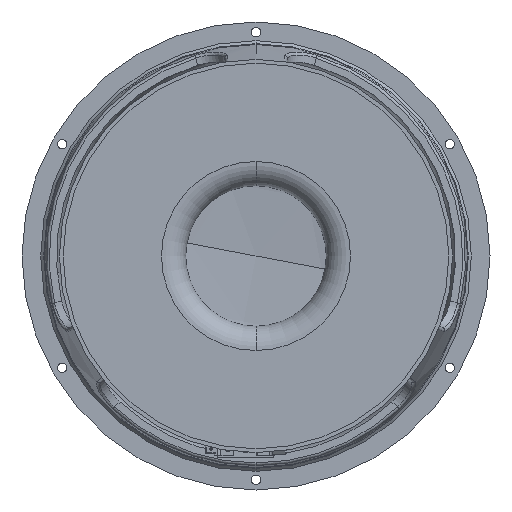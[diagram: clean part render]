
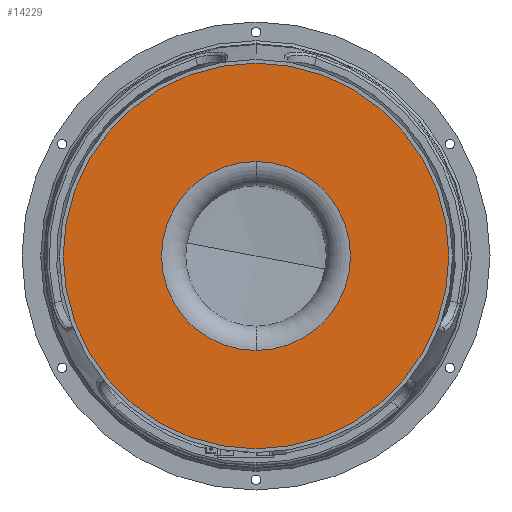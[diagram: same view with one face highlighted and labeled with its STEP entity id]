
A CAD part, front view. The second image highlights one B-rep face of the part: STEP entity #14229.
In plain terms, the highlighted planar face has unit normal (0, -1, 0).
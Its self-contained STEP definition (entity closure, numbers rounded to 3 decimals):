
#1435 = VERTEX_POINT ( 'NONE', #2623 ) ;
#2566 = DIRECTION ( 'NONE',  ( 0., -1., 0. ) ) ;
#2623 = CARTESIAN_POINT ( 'NONE',  ( 0., -56.5, -50.5 ) ) ;
#3264 = EDGE_CURVE ( 'NONE', #12373, #12003, #19833, .T. ) ;
#3355 = AXIS2_PLACEMENT_3D ( 'NONE', #19622, #9772, #21264 ) ;
#4323 = CARTESIAN_POINT ( 'NONE',  ( 0., -56.5, -103. ) ) ;
#4853 = CARTESIAN_POINT ( 'NONE',  ( 0., -56.5, 50.5 ) ) ;
#4999 = EDGE_LOOP ( 'NONE', ( #17931, #17667 ) ) ;
#5209 = AXIS2_PLACEMENT_3D ( 'NONE', #13741, #17062, #7168 ) ;
#5247 = CARTESIAN_POINT ( 'NONE',  ( 0., -56.5, 0. ) ) ;
#6384 = DIRECTION ( 'NONE',  ( 0., -1., 0. ) ) ;
#6883 = DIRECTION ( 'NONE',  ( 0., 0., -1. ) ) ;
#7168 = DIRECTION ( 'NONE',  ( 0., 0., -1. ) ) ;
#8040 = CIRCLE ( 'NONE', #3355, 50.5 ) ;
#9271 = EDGE_CURVE ( 'NONE', #1435, #19871, #15607, .T. ) ;
#9591 = EDGE_CURVE ( 'NONE', #19871, #1435, #8040, .T. ) ;
#9772 = DIRECTION ( 'NONE',  ( 0., -1., 0. ) ) ;
#10438 = PLANE ( 'NONE',  #5209 ) ;
#10822 = AXIS2_PLACEMENT_3D ( 'NONE', #5247, #16781, #6883 ) ;
#10858 = FACE_BOUND ( 'NONE', #4999, .T. ) ;
#10877 = ORIENTED_EDGE ( 'NONE', *, *, #20690, .T. ) ;
#12003 = VERTEX_POINT ( 'NONE', #4323 ) ;
#12373 = VERTEX_POINT ( 'NONE', #15834 ) ;
#12449 = CARTESIAN_POINT ( 'NONE',  ( 0., -56.5, 0. ) ) ;
#13741 = CARTESIAN_POINT ( 'NONE',  ( 103., -56.5, 0. ) ) ;
#14101 = DIRECTION ( 'NONE',  ( 0., 0., -1. ) ) ;
#14229 = ADVANCED_FACE ( 'NONE', ( #15744, #10858 ), #10438, .T. ) ;
#15459 = EDGE_LOOP ( 'NONE', ( #10877, #15477 ) ) ;
#15477 = ORIENTED_EDGE ( 'NONE', *, *, #3264, .T. ) ;
#15607 = CIRCLE ( 'NONE', #10822, 50.5 ) ;
#15744 = FACE_OUTER_BOUND ( 'NONE', #15459, .T. ) ;
#15834 = CARTESIAN_POINT ( 'NONE',  ( 0., -56.5, 103. ) ) ;
#16220 = AXIS2_PLACEMENT_3D ( 'NONE', #12449, #2566, #14101 ) ;
#16291 = CARTESIAN_POINT ( 'NONE',  ( 0., -56.5, 0. ) ) ;
#16781 = DIRECTION ( 'NONE',  ( 0., -1., 0. ) ) ;
#17062 = DIRECTION ( 'NONE',  ( 0., -1., 0. ) ) ;
#17667 = ORIENTED_EDGE ( 'NONE', *, *, #9591, .F. ) ;
#17878 = AXIS2_PLACEMENT_3D ( 'NONE', #16291, #6384, #17910 ) ;
#17910 = DIRECTION ( 'NONE',  ( 0., 0., -1. ) ) ;
#17931 = ORIENTED_EDGE ( 'NONE', *, *, #9271, .F. ) ;
#18154 = CIRCLE ( 'NONE', #17878, 103. ) ;
#19622 = CARTESIAN_POINT ( 'NONE',  ( 0., -56.5, 0. ) ) ;
#19833 = CIRCLE ( 'NONE', #16220, 103. ) ;
#19871 = VERTEX_POINT ( 'NONE', #4853 ) ;
#20690 = EDGE_CURVE ( 'NONE', #12003, #12373, #18154, .T. ) ;
#21264 = DIRECTION ( 'NONE',  ( 0., 0., -1. ) ) ;
